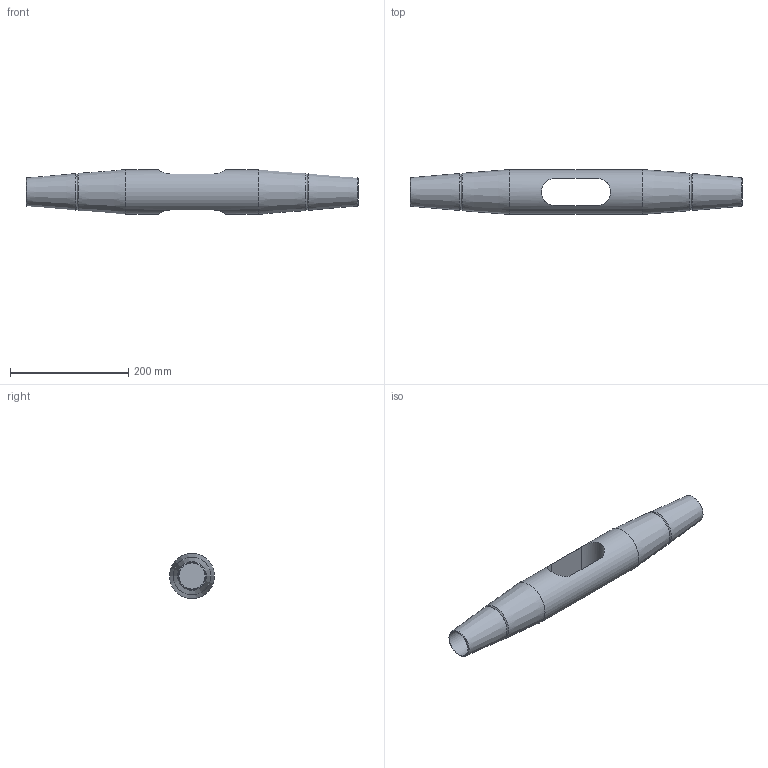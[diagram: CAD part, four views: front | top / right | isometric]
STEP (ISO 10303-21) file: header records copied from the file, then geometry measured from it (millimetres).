
FILE_DESCRIPTION(/* description */ (''),/* implementation_level */ '2;1');
FILE_NAME(/* name */ 'G:\Engineering\700 CAD\Internet-PX-1-step-igs-dxf\520-KMF-Arbeitsdateien\520-042-KMF.stp',/* time_stamp */ '2020-07-02T13:23:15+02:00',/* author */ ('schwarz'),/* organization */ (''),/* preprocessor_version */ 'ST-DEVELOPER v16.1',/* originating_system */ 'Autodesk Inventor 2016',/* authorisation */ '');
FILE_SCHEMA (('AUTOMOTIVE_DESIGN { 1 0 10303 214 3 1 1 }'));
Length unit declared in the file: centimetre
Products named in the file (1): Kreuzmuffen-Set 520 042 Kunde
Bounding box: 561 x 76 x 76 mm (x, y, z)
Volume: 1510436.8 mm3; surface area: 149674.3 mm2
Topology: 1 solids, 1 shells, 21 faces, 41 edges, 24 vertices
Faces by surface type: cone 10, plane 6, cylinder 5
Full cylindrical faces by diameter (mm): 44 x2, 76 x1
Entity records: 653 total; most frequent: CARTESIAN_POINT 206, DIRECTION 84, ORIENTED_EDGE 56, EDGE_LOOP 38, AXIS2_PLACEMENT_3D 38, EDGE_CURVE 28, VERTEX_POINT 24, STYLED_ITEM 22
